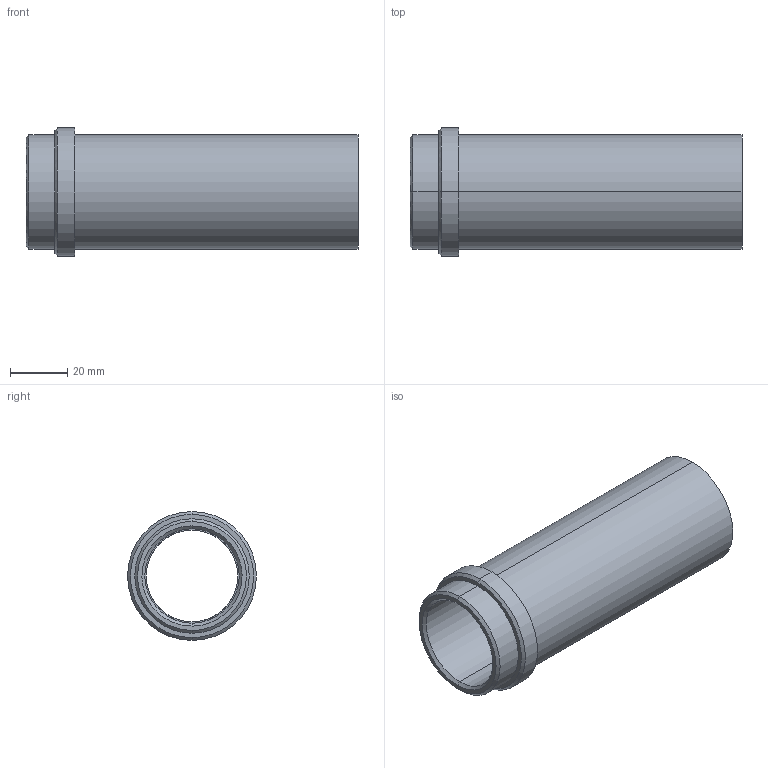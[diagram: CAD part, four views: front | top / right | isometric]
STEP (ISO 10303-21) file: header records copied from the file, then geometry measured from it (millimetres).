
FILE_DESCRIPTION(('CATIA V5 STEP Exchange'),'2;1');
FILE_NAME('C:\Users\Utente\Desktop\IO LAVORO\3D X SITO CF\X SITO\PLASTICA\358\358-32x116.stp','2021-04-09T13:12:29+00:00',('none'),('none'),'CATIA Version 5 Release 20 GA (IN-10)','CATIA V5 STEP AP203','none');
FILE_SCHEMA(('CONFIG_CONTROL_DESIGN'));
Length unit declared in the file: millimetre
Products named in the file (1): 358-32X116
Bounding box: 116 x 45 x 45 mm (x, y, z)
Volume: 51886.1 mm3; surface area: 27781.3 mm2
Topology: 1 solids, 1 shells, 23 faces, 74 edges, 56 vertices
Faces by surface type: cylinder 10, cone 6, plane 5, torus 2
Entity records: 1066 total; most frequent: CARTESIAN_POINT 378, ORIENTED_EDGE 148, DIRECTION 104, EDGE_CURVE 74, AXIS2_PLACEMENT_3D 66, VERTEX_POINT 56, CIRCLE 42, EDGE_LOOP 28
